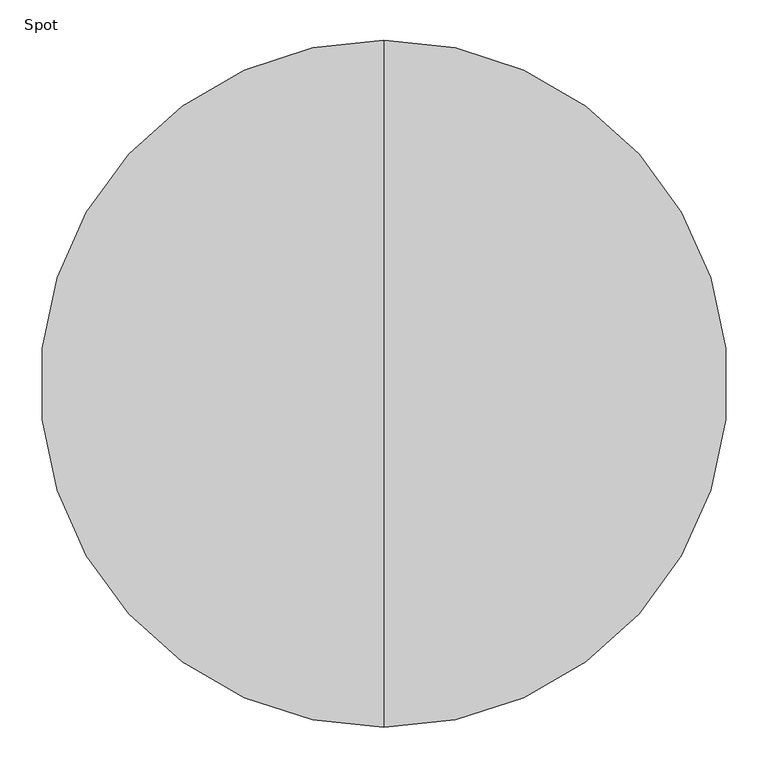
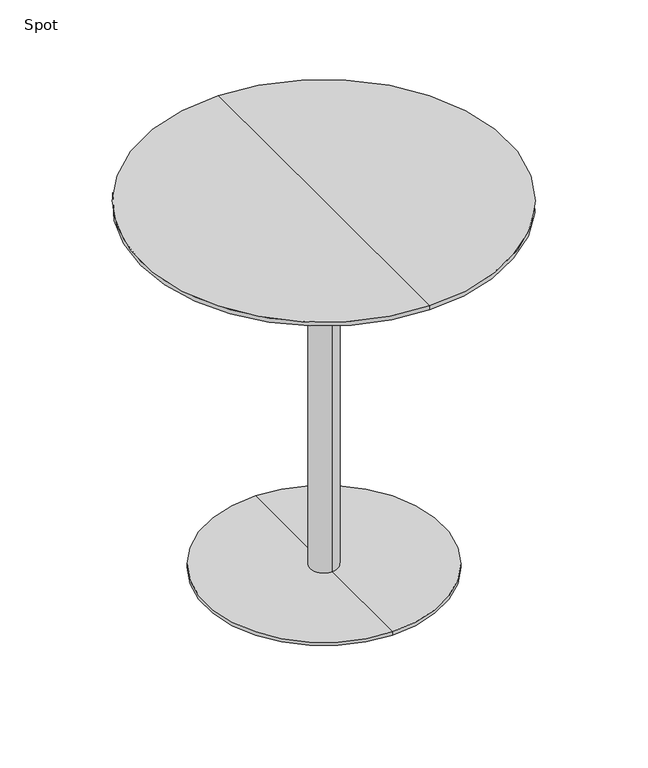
"""IFC4 building model written with IfcOpenShell, lengths in millimetres: furniture geometry, Spot : ø85x90."""

import ifcopenshell
import ifcopenshell.guid

model = None  # the IFC model being written
_history = None  # IfcOwnerHistory: only IFC2X3 demands one
_inside = {}  # id of a spatial element -> (the spatial element, [elements in it])
_under = {}  # id of a project, library or spatial element -> (it, [spatial elements below it])
_declared = {}  # id of a project -> (the project, [libraries it declares])
_typed = {}  # id of a type object -> (the type object, [elements of that type])
_made_of = {}  # id of a material, layer set ... -> (it, [elements and type objects made of it])


def new_model(schema):
    """Start an empty IFC model of exactly this schema.

    Asked for "IFC4X3", IfcOpenShell would pick the latest addendum, in which some entities
    have other attributes; the version numbers below select the first issue.
    IFC2X3 requires an IfcOwnerHistory on every rooted entity: one is made here for all.
    """
    global model, _history
    if schema == "IFC4X3":
        model = ifcopenshell.file(schema_version=(4, 3, 0, 0))
    else:
        model = ifcopenshell.file(schema=schema)
    _inside.clear()
    _under.clear()
    _declared.clear()
    _typed.clear()
    _made_of.clear()
    _history = None
    if model.schema == "IFC2X3":
        org = make("IfcOrganization", Name="unknown")
        user = make(
            "IfcPersonAndOrganization",
            ThePerson=make("IfcPerson", FamilyName="unknown"),
            TheOrganization=org,
        )
        app = make(
            "IfcApplication",
            ApplicationDeveloper=org,
            Version="unknown",
            ApplicationFullName="unknown",
            ApplicationIdentifier="unknown",
        )
        _history = make(
            "IfcOwnerHistory",
            OwningUser=user,
            OwningApplication=app,
            ChangeAction="ADDED",
            CreationDate=0,
        )
    return model


def make(cls, **values):
    """One entity of the class cls with the attributes given. An attribute that is None is left unset."""
    return model.create_entity(
        cls, **{name: value for name, value in values.items() if value is not None}
    )


def rooted(cls, **values):
    """An entity with a GlobalId (a new one), such as an element, a storey or a relation."""
    return make(cls, GlobalId=ifcopenshell.guid.new(), OwnerHistory=_history, **values)


def si_unit(unit_type, name, prefix=None):
    """IfcSIUnit, for example si_unit("LENGTHUNIT", "METRE", prefix="MILLI")."""
    return make("IfcSIUnit", UnitType=unit_type, Prefix=prefix, Name=name)


def assignment(units):
    """IfcUnitAssignment: the units of a project."""
    return None if units is None else make("IfcUnitAssignment", Units=units)


def point(xyz):
    """IfcCartesianPoint."""
    return None if xyz is None else make("IfcCartesianPoint", Coordinates=xyz)


def direction(xyz):
    """IfcDirection."""
    return None if xyz is None else make("IfcDirection", DirectionRatios=xyz)


def frame(location, z_axis=None, x_axis=None):
    """IfcAxis2Placement3D, a coordinate frame: its origin and axes. An axis left out is left unset."""
    return make(
        "IfcAxis2Placement3D",
        Location=point(location),
        Axis=direction(z_axis),
        RefDirection=direction(x_axis),
    )


def origin():
    """The frame at (0, 0, 0) with its axes left unset."""
    return frame((0.0, 0.0, 0.0))


def place(relative_to, where):
    """IfcLocalPlacement: puts the frame where relative to a parent placement (None: the world)."""
    return make(
        "IfcLocalPlacement", PlacementRelTo=relative_to, RelativePlacement=where
    )


def context(
    kind, dimensions, precision=None, world=None, true_north=None, identifier=None
):
    """IfcGeometricRepresentationContext, for example the 3D "Model" context."""
    return make(
        "IfcGeometricRepresentationContext",
        ContextIdentifier=identifier,
        ContextType=kind,
        CoordinateSpaceDimension=dimensions,
        Precision=precision,
        WorldCoordinateSystem=world,
        TrueNorth=true_north,
    )


def project(units=None, contexts=None):
    """IfcProject with its units and contexts."""
    return rooted(
        "IfcProject",
        Name="project",
        RepresentationContexts=contexts,
        UnitsInContext=assignment(units),
    )


def spatial(cls, under=None, at=None, **own):
    """A site, building, storey or space (cls), placed at a placement, below another one or the project."""
    s = rooted(cls, ObjectPlacement=at, **own)
    if under is not None:
        _under.setdefault(under.id(), (under, []))[1].append(s)
    return s


def polyline(points):
    """IfcPolyline through the points."""
    return make("IfcPolyline", Points=[point(p) for p in points])


def circle_curve(where, radius):
    """IfcCircle in the frame where."""
    return make("IfcCircle", Position=where, Radius=radius)


def shape(context_of_items, identifier, shape_type, items):
    """IfcShapeRepresentation: the items that make up one representation, for example the "Body"."""
    return make(
        "IfcShapeRepresentation",
        ContextOfItems=context_of_items,
        RepresentationIdentifier=identifier,
        RepresentationType=shape_type,
        Items=items,
    )


def source(mapping_origin, context_of_items, identifier, shape_type, items):
    """IfcRepresentationMap: a shape defined once, which mapped items show again and again."""
    return make(
        "IfcRepresentationMap",
        MappingOrigin=mapping_origin,
        MappedRepresentation=shape(context_of_items, identifier, shape_type, items),
    )


def transform(
    local_origin,
    x_axis=None,
    y_axis=None,
    z_axis=None,
    scale=None,
    scale2=None,
    scale3=None,
    uniform=True,
):
    """IfcCartesianTransformationOperator3D, or its non-uniform kind. x_axis, y_axis, z_axis: its Axis1, 2, 3."""
    if uniform:
        return make(
            "IfcCartesianTransformationOperator3D",
            Axis1=direction(x_axis),
            Axis2=direction(y_axis),
            LocalOrigin=point(local_origin),
            Scale=scale,
            Axis3=direction(z_axis),
        )
    return make(
        "IfcCartesianTransformationOperator3DnonUniform",
        Axis1=direction(x_axis),
        Axis2=direction(y_axis),
        LocalOrigin=point(local_origin),
        Scale=scale,
        Axis3=direction(z_axis),
        Scale2=scale2,
        Scale3=scale3,
    )


def mapped(mapping_source, mapping_target):
    """IfcMappedItem: shows the shape of a source again, moved by a transform."""
    return make(
        "IfcMappedItem", MappingSource=mapping_source, MappingTarget=mapping_target
    )


def made_of(thing, what):
    """Note that an element or type object is made of a material, layer set ...; save() writes the relation."""
    if what is not None:
        _made_of.setdefault(what.id(), (what, []))[1].append(thing)
    return thing


def element(
    cls,
    number,
    at=None,
    inside=None,
    cuts=None,
    type_object=None,
    material=None,
    context=None,
    identifier="Body",
    shape_type=None,
    held_by="IfcProductDefinitionShape",
    body=None,
    shapes=None,
    **own,
):
    """One element of the class cls, such as IfcWall. Its Tag is "e" and its number.

    at: its placement. inside: the storey or other place that contains it. cuts: it is an
    opening in that element (IfcRelVoidsElement). A single representation is given by context,
    identifier, shape_type and body (its items); several are given by shapes. held_by: the class
    of the entity that holds the representations. save() writes the other relations.
    """
    e = rooted(cls, Tag="e%d" % number, ObjectPlacement=at, **own)
    if body is not None:
        shapes = [shape(context, identifier, shape_type, body)]
    if shapes is not None:
        e.Representation = make(held_by, Representations=shapes)
    if inside is not None:
        _inside.setdefault(inside.id(), (inside, []))[1].append(e)
    if cuts is not None:
        rooted(
            "IfcRelVoidsElement", RelatingBuildingElement=cuts, RelatedOpeningElement=e
        )
    if type_object is not None:
        _typed.setdefault(type_object.id(), (type_object, []))[1].append(e)
    return made_of(e, material)


def aggregate(whole, parts):
    """IfcRelAggregates: a whole, such as a stair, and the parts it consists of."""
    return rooted("IfcRelAggregates", RelatingObject=whole, RelatedObjects=parts)


def save(model, path):
    """Write the relations noted so far, then the file.

    IfcRelAggregates (storeys below a building ...), IfcRelContainedInSpatialStructure (elements
    in a storey), IfcRelDefinesByType, IfcRelAssociatesMaterial and IfcRelDeclares: one each for
    every whole, place, type object, material and project.
    """
    for whole, parts in _under.values():
        aggregate(whole, parts)
    for where, things in _inside.values():
        rooted(
            "IfcRelContainedInSpatialStructure",
            RelatedElements=things,
            RelatingStructure=where,
        )
    for kind, things in _typed.values():
        rooted("IfcRelDefinesByType", RelatedObjects=things, RelatingType=kind)
    for what, things in _made_of.values():
        rooted("IfcRelAssociatesMaterial", RelatedObjects=things, RelatingMaterial=what)
    for by, libraries in _declared.values():
        rooted("IfcRelDeclares", RelatingContext=by, RelatedDefinitions=libraries)
    model.write(path)


def plane_surface(at):
    """IfcPlane: the flat surface through the origin of the frame at, square to its z axis."""
    return make("IfcPlane", Position=at)


def cylinder_surface(at, radius):
    """IfcCylindricalSurface: all points at the distance radius from the z axis of the frame at."""
    return make("IfcCylindricalSurface", Position=at, Radius=radius)


def revolved_surface(curve, axis_point, axis_direction):
    """IfcSurfaceOfRevolution: the curve turned about the line through axis_point along axis_direction."""
    return make(
        "IfcSurfaceOfRevolution",
        SweptCurve=make("IfcArbitraryOpenProfileDef", ProfileType="CURVE", Curve=curve),
        AxisPosition=make("IfcAxis1Placement", Location=point(axis_point), Axis=direction(axis_direction)),
    )


def advanced_brep(points, edges, surfaces, faces):
    """IfcAdvancedBrep: a solid bounded by faces that lie on surfaces and meet in shared edges.

    An edge is (start, end): straight between two places in points (the first is 0);
    or (start, end, curve); or (start, end, curve, False) where it runs against its curve.
    A face is (place in surfaces, loops), or (place, loops, False) where it looks against
    its surface's normal. A loop lists edges by number (the first is 1), with a minus sign
    where the edge is run from its end to its start. The first loop is the outer one.
    """
    corners = [point(p) for p in points]
    vertices = [make("IfcVertexPoint", VertexGeometry=c) for c in corners]
    made = []
    for start, end, *more in edges:
        made.append(
            make(
                "IfcEdgeCurve",
                EdgeStart=vertices[start],
                EdgeEnd=vertices[end],
                EdgeGeometry=more[0] if more else make("IfcPolyline", Points=[corners[start], corners[end]]),
                SameSense=more[1] if len(more) > 1 else True,
            )
        )
    hull = []
    for where, loops, *sense in faces:
        bounds = []
        for j, loop in enumerate(loops):
            ring = [make("IfcOrientedEdge", EdgeElement=made[abs(k) - 1], Orientation=k > 0) for k in loop]
            bounds.append(
                make(
                    "IfcFaceOuterBound" if j == 0 else "IfcFaceBound",
                    Bound=make("IfcEdgeLoop", EdgeList=ring),
                    Orientation=True,
                )
            )
        hull.append(make("IfcAdvancedFace", Bounds=bounds, FaceSurface=surfaces[where], SameSense=sense[0] if sense else True))
    return make("IfcAdvancedBrep", Outer=make("IfcClosedShell", CfsFaces=hull))


def spot_722c7204(model_context):
    return source(origin(), model_context, "Body", "AdvancedBrep", [
        advanced_brep(
        [(0.0, 425.0, 900.0), (0.0, -425.0, 900.0), (0.0, 0.0, 900.0), (0.0, 425.0, 890.25), (0.0, -425.0, 890.25), (0.0, 379.2823776, 878.0), (0.0, -379.2823776, 878.0), (0.0, 0.0, 878.0)],
        [
            (0, 1, circle_curve(frame((0.0, 0.0, 900.0), z_axis=(0.0, 0.0, 1.0), x_axis=(0.0, -1.0, 0.0)), 425.0)),
            (1, 2),
            (2, 0),
            (1, 0, circle_curve(frame((0.0, 0.0, 900.0), z_axis=(0.0, 0.0, 1.0), x_axis=(0.0, -1.0, 0.0)), 425.0)),
            (3, 4, circle_curve(frame((0.0, 0.0, 890.25), z_axis=(0.0, 0.0, 1.0), x_axis=(0.0, -1.0, 0.0)), 425.0)),
            (4, 1),
            (0, 3),
            (4, 3, circle_curve(frame((0.0, 0.0, 890.25), z_axis=(0.0, 0.0, 1.0), x_axis=(0.0, -1.0, 0.0)), 425.0)),
            (5, 6, circle_curve(frame((0.0, 0.0, 878.0), z_axis=(0.0, 0.0, 1.0), x_axis=(0.0, -1.0, 0.0)), 379.2823776)),
            (6, 4),
            (3, 5),
            (6, 5, circle_curve(frame((0.0, 0.0, 878.0), z_axis=(0.0, 0.0, 1.0), x_axis=(0.0, -1.0, 0.0)), 379.2823776)),
            (7, 6),
            (5, 7),
        ],
        [
            plane_surface(frame((0.0, 0.0, 900.0), z_axis=(0.0, 0.0, 1.0), x_axis=(0.0, -1.0, 0.0))),
            cylinder_surface(frame((0.0, 0.0, 980.0), z_axis=(0.0, 0.0, -1.0), x_axis=(0.0, -1.0, 0.0)), 425.0),
            revolved_surface(polyline([(0.0, -425.0, 890.25), (0.0, -379.2823776, 878.0)]), (0.0, 0.0, 980.0), (0.0, 0.0, -1.0)),
            plane_surface(frame((0.0, 0.0, 878.0), z_axis=(0.0, 0.0, -1.0), x_axis=(0.0, -1.0, 0.0))),
        ],
        [
            (0, [[1, 2, 3]]),
            (0, [[4, -3, -2]]),
            (1, [[5, 6, -1, 7]]),
            (1, [[8, -7, -4, -6]]),
            (2, [[9, 10, -5, 11]]),
            (2, [[12, -11, -8, -10]]),
            (3, [[13, -9, 14]]),
            (3, [[-14, -12, -13]]),
        ],
    ),
        advanced_brep(
        [(0.0, 32.0, 10.0), (0.0, -32.0, 10.0), (0.0, -32.0, 847.406916), (0.0, 32.0, 847.406916), (0.0, 275.0, 10.0), (0.0, -275.0, 10.0), (0.0, 275.0, 2.0), (0.0, -275.0, 2.0), (0.0, 0.0, 2.0), (0.0, 150.0, 878.0), (0.0, -150.0, 878.0), (0.0, 0.0, 878.0), (0.0, 150.0, 866.7213673), (0.0, -150.0, 866.7213673)],
        [
            (0, 1, circle_curve(frame((0.0, 0.0, 10.0), z_axis=(0.0, 0.0, 1.0), x_axis=(0.0, -1.0, 0.0)), 32.0)),
            (1, 2),
            (2, 3, circle_curve(frame((0.0, 0.0, 847.406916), z_axis=(0.0, 0.0, -1.0), x_axis=(0.0, -1.0, 0.0)), 32.0)),
            (3, 0),
            (1, 0, circle_curve(frame((0.0, 0.0, 10.0), z_axis=(0.0, 0.0, 1.0), x_axis=(0.0, -1.0, 0.0)), 32.0)),
            (3, 2, circle_curve(frame((0.0, 0.0, 847.406916), z_axis=(0.0, 0.0, -1.0), x_axis=(0.0, -1.0, 0.0)), 32.0)),
            (4, 5, circle_curve(frame((0.0, 0.0, 10.0), z_axis=(0.0, 0.0, 1.0), x_axis=(0.0, -1.0, 0.0)), 275.0)),
            (5, 1),
            (0, 4),
            (5, 4, circle_curve(frame((0.0, 0.0, 10.0), z_axis=(0.0, 0.0, 1.0), x_axis=(0.0, -1.0, 0.0)), 275.0)),
            (6, 7, circle_curve(frame((0.0, 0.0, 2.0), z_axis=(0.0, 0.0, 1.0), x_axis=(0.0, -1.0, 0.0)), 275.0)),
            (7, 5),
            (4, 6),
            (7, 6, circle_curve(frame((0.0, 0.0, 2.0), z_axis=(0.0, 0.0, 1.0), x_axis=(0.0, -1.0, 0.0)), 275.0)),
            (8, 7),
            (6, 8),
            (9, 10, circle_curve(frame((0.0, 0.0, 878.0), z_axis=(0.0, 0.0, 1.0), x_axis=(0.0, -1.0, 0.0)), 150.0)),
            (10, 11),
            (11, 9),
            (10, 9, circle_curve(frame((0.0, 0.0, 878.0), z_axis=(0.0, 0.0, 1.0), x_axis=(0.0, -1.0, 0.0)), 150.0)),
            (12, 13, circle_curve(frame((0.0, 0.0, 866.7213673), z_axis=(0.0, 0.0, 1.0), x_axis=(0.0, -1.0, 0.0)), 150.0)),
            (13, 10),
            (9, 12),
            (13, 12, circle_curve(frame((0.0, 0.0, 866.7213673), z_axis=(0.0, 0.0, 1.0), x_axis=(0.0, -1.0, 0.0)), 150.0)),
            (2, 13),
            (12, 3),
        ],
        [
            cylinder_surface(frame((0.0, 0.0, 1240.0), z_axis=(0.0, 0.0, -1.0), x_axis=(0.0, -1.0, 0.0)), 32.0),
            plane_surface(frame((0.0, 0.0, 10.0), z_axis=(0.0, 0.0, 1.0), x_axis=(0.0, -1.0, 0.0))),
            cylinder_surface(frame((0.0, 0.0, 1240.0), z_axis=(0.0, 0.0, -1.0), x_axis=(0.0, -1.0, 0.0)), 275.0),
            plane_surface(frame((0.0, 0.0, 2.0), z_axis=(0.0, 0.0, -1.0), x_axis=(0.0, -1.0, 0.0))),
            plane_surface(frame((0.0, 0.0, 878.0), z_axis=(0.0, 0.0, 1.0), x_axis=(0.0, -1.0, 0.0))),
            cylinder_surface(frame((0.0, 0.0, 1240.0), z_axis=(0.0, 0.0, -1.0), x_axis=(0.0, -1.0, 0.0)), 150.0),
            revolved_surface(polyline([(0.0, -150.0, 866.7213673), (0.0, -32.0, 847.406916)]), (0.0, 0.0, 1240.0), (0.0, 0.0, -1.0)),
        ],
        [
            (0, [[1, 2, 3, 4]]),
            (0, [[5, -4, 6, -2]]),
            (1, [[7, 8, -1, 9]]),
            (1, [[10, -9, -5, -8]]),
            (2, [[11, 12, -7, 13]]),
            (2, [[14, -13, -10, -12]]),
            (3, [[15, -11, 16]]),
            (3, [[-16, -14, -15]]),
            (4, [[17, 18, 19]]),
            (4, [[20, -19, -18]]),
            (5, [[21, 22, -17, 23]]),
            (5, [[24, -23, -20, -22]]),
            (6, [[-3, 25, -21, 26]]),
            (6, [[-6, -26, -24, -25]]),
        ],
    ),
    ])


if __name__ == "__main__":
    model = new_model("IFC4")
    model_context = context("Model", 3, world=origin())
    ifc_project = project(units=[si_unit("LENGTHUNIT", "METRE", prefix="MILLI")], contexts=[model_context])
    site = spatial("IfcSite", under=ifc_project)
    building = spatial("IfcBuilding", under=site)
    placement = place(None, origin())
    spot_shape = spot_722c7204(model_context)
    element("IfcFurniture", 1, ObjectType="Spot : ø85x90", at=placement, inside=building, context=model_context, shape_type="MappedRepresentation", body=[
        mapped(spot_shape, transform((0.0, 0.0, 0.0), x_axis=(1.0, 0.0, 0.0), y_axis=(0.0, 1.0, 0.0), z_axis=(0.0, 0.0, 1.0))),
    ])
    save(model, "model.ifc")
